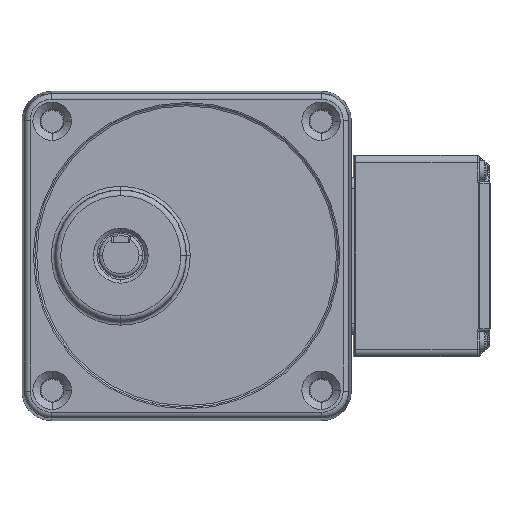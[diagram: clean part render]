
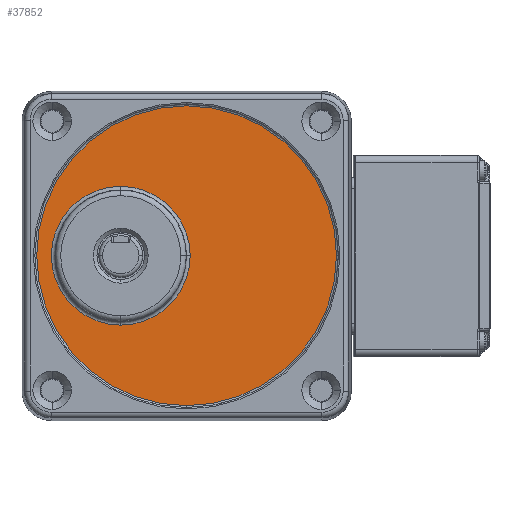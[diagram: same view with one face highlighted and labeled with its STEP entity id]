
A CAD part, top view. The second image highlights one B-rep face of the part: STEP entity #37852.
In plain terms, the highlighted planar face has unit normal (0, 0, 1) as drawn and (1, 0, 0) by its records, which use the part's own axes.
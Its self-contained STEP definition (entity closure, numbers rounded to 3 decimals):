
#487 = AXIS2_PLACEMENT_3D ( 'NONE', #23815, #5367, #62979 ) ;
#1633 = EDGE_LOOP ( 'NONE', ( #52757, #4811, #22050 ) ) ;
#2504 = DIRECTION ( 'NONE',  ( 0., 0., 1. ) ) ;
#3016 = CARTESIAN_POINT ( 'NONE',  ( 2679.792, -734.166, 0. ) ) ;
#3342 = DIRECTION ( 'NONE',  ( 0., 0., -1. ) ) ;
#3428 = VERTEX_POINT ( 'NONE', #47097 ) ;
#4040 = CIRCLE ( 'NONE', #46704, 40.991 ) ;
#4218 = DIRECTION ( 'NONE',  ( 0., 0., 1. ) ) ;
#4303 = CIRCLE ( 'NONE', #41913, 18.983 ) ;
#4811 = ORIENTED_EDGE ( 'NONE', *, *, #22407, .F. ) ;
#5367 = DIRECTION ( 'NONE',  ( -1., 0., 0. ) ) ;
#5388 = AXIS2_PLACEMENT_3D ( 'NONE', #57039, #8978, #4218 ) ;
#7270 = DIRECTION ( 'NONE',  ( -1., 0., 0. ) ) ;
#8585 = CIRCLE ( 'NONE', #44146, 40.991 ) ;
#8978 = DIRECTION ( 'NONE',  ( 1., 0., 0. ) ) ;
#10045 = DIRECTION ( 'NONE',  ( 1., 0., 0. ) ) ;
#10142 = AXIS2_PLACEMENT_3D ( 'NONE', #27481, #27810, #3342 ) ;
#16390 = FACE_BOUND ( 'NONE', #1633, .T. ) ;
#17267 = CIRCLE ( 'NONE', #10142, 18.983 ) ;
#19587 = DIRECTION ( 'NONE',  ( 0., 0., -1. ) ) ;
#20214 = PLANE ( 'NONE',  #49113 ) ;
#20395 = EDGE_CURVE ( 'NONE', #57946, #57150, #4303, .T. ) ;
#22050 = ORIENTED_EDGE ( 'NONE', *, *, #56189, .F. ) ;
#22407 = EDGE_CURVE ( 'NONE', #32403, #57946, #32897, .T. ) ;
#23680 = EDGE_LOOP ( 'NONE', ( #40447, #37502, #49778 ) ) ;
#23792 = EDGE_CURVE ( 'NONE', #60950, #55856, #8585, .T. ) ;
#23815 = CARTESIAN_POINT ( 'NONE',  ( 2679.792, -775.157, 0. ) ) ;
#25744 = CARTESIAN_POINT ( 'NONE',  ( 2679.792, -775.157, 0. ) ) ;
#27481 = CARTESIAN_POINT ( 'NONE',  ( 2679.792, -793.157, 0. ) ) ;
#27577 = CARTESIAN_POINT ( 'NONE',  ( 2679.792, -774.175, 0. ) ) ;
#27810 = DIRECTION ( 'NONE',  ( 1., 0., 0. ) ) ;
#29199 = CARTESIAN_POINT ( 'NONE',  ( 2679.792, -793.157, 18.983 ) ) ;
#29446 = DIRECTION ( 'NONE',  ( 0., 1., 0. ) ) ;
#30060 = CARTESIAN_POINT ( 'NONE',  ( 2679.792, -793.157, 0. ) ) ;
#32403 = VERTEX_POINT ( 'NONE', #29199 ) ;
#32897 = CIRCLE ( 'NONE', #5388, 18.983 ) ;
#33969 = CARTESIAN_POINT ( 'NONE',  ( 2679.792, -775.157, 40.991 ) ) ;
#35005 = DIRECTION ( 'NONE',  ( 0., 0., 1. ) ) ;
#36836 = CARTESIAN_POINT ( 'NONE',  ( 2679.792, -775.157, 0. ) ) ;
#37502 = ORIENTED_EDGE ( 'NONE', *, *, #47589, .F. ) ;
#37852 = ADVANCED_FACE ( 'NONE', ( #58750, #16390 ), #20214, .T. ) ;
#40447 = ORIENTED_EDGE ( 'NONE', *, *, #53831, .F. ) ;
#41913 = AXIS2_PLACEMENT_3D ( 'NONE', #30060, #59380, #19587 ) ;
#43994 = CARTESIAN_POINT ( 'NONE',  ( 2679.792, -793.157, -18.983 ) ) ;
#44146 = AXIS2_PLACEMENT_3D ( 'NONE', #36836, #7270, #2504 ) ;
#46704 = AXIS2_PLACEMENT_3D ( 'NONE', #25744, #50302, #35005 ) ;
#47097 = CARTESIAN_POINT ( 'NONE',  ( 2679.792, -775.157, -40.991 ) ) ;
#47589 = EDGE_CURVE ( 'NONE', #55856, #3428, #4040, .T. ) ;
#48285 = CIRCLE ( 'NONE', #487, 40.991 ) ;
#49113 = AXIS2_PLACEMENT_3D ( 'NONE', #53673, #10045, #29446 ) ;
#49778 = ORIENTED_EDGE ( 'NONE', *, *, #23792, .F. ) ;
#50302 = DIRECTION ( 'NONE',  ( -1., 0., 0. ) ) ;
#52757 = ORIENTED_EDGE ( 'NONE', *, *, #20395, .F. ) ;
#53673 = CARTESIAN_POINT ( 'NONE',  ( 2679.792, -775.157, 0. ) ) ;
#53831 = EDGE_CURVE ( 'NONE', #3428, #60950, #48285, .T. ) ;
#55856 = VERTEX_POINT ( 'NONE', #3016 ) ;
#56189 = EDGE_CURVE ( 'NONE', #57150, #32403, #17267, .T. ) ;
#57039 = CARTESIAN_POINT ( 'NONE',  ( 2679.792, -793.157, 0. ) ) ;
#57150 = VERTEX_POINT ( 'NONE', #27577 ) ;
#57946 = VERTEX_POINT ( 'NONE', #43994 ) ;
#58750 = FACE_OUTER_BOUND ( 'NONE', #23680, .T. ) ;
#59380 = DIRECTION ( 'NONE',  ( 1., 0., 0. ) ) ;
#60950 = VERTEX_POINT ( 'NONE', #33969 ) ;
#62979 = DIRECTION ( 'NONE',  ( 0., 0., -1. ) ) ;
